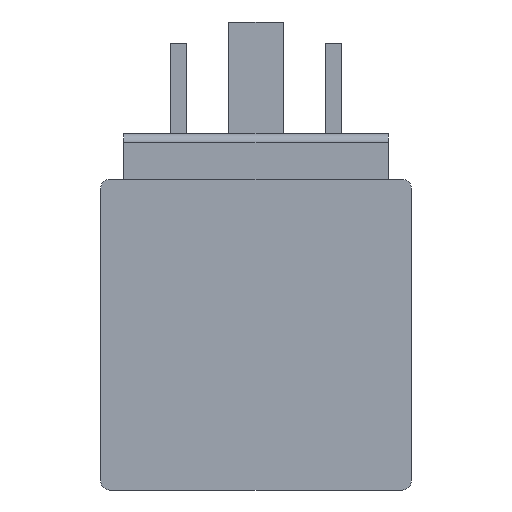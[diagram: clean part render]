
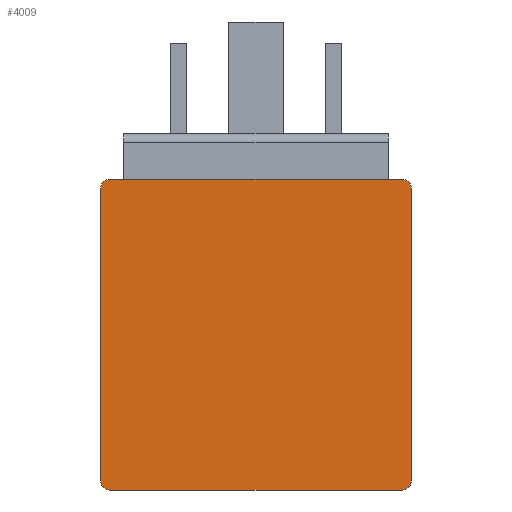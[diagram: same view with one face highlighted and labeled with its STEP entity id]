
A CAD part, front view. The second image highlights one B-rep face of the part: STEP entity #4009.
In plain terms, the highlighted planar face has unit normal (0, -1, 0).
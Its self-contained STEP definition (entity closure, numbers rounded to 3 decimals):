
#1369=CARTESIAN_POINT('',(-16.,-23.,-16.));
#1370=DIRECTION('',(0.,-1.,0.));
#1371=DIRECTION('',(-1.,0.,0.));
#1372=AXIS2_PLACEMENT_3D('',#1369,#1370,#1371);
#1374=DIRECTION('',(0.,0.,-1.));
#1375=VECTOR('',#1374,32.);
#1376=CARTESIAN_POINT('',(-17.,-23.,16.));
#1377=LINE('',#1376,#1375);
#1378=CARTESIAN_POINT('',(-16.,-23.,16.));
#1379=DIRECTION('',(0.,-1.,0.));
#1380=DIRECTION('',(0.,0.,1.));
#1381=AXIS2_PLACEMENT_3D('',#1378,#1379,#1380);
#1383=DIRECTION('',(-1.,0.,0.));
#1384=VECTOR('',#1383,32.);
#1385=CARTESIAN_POINT('',(16.,-23.,17.));
#1386=LINE('',#1385,#1384);
#1387=CARTESIAN_POINT('',(16.,-23.,16.));
#1388=DIRECTION('',(0.,-1.,0.));
#1389=DIRECTION('',(1.,0.,0.));
#1390=AXIS2_PLACEMENT_3D('',#1387,#1388,#1389);
#1392=DIRECTION('',(0.,0.,1.));
#1393=VECTOR('',#1392,32.);
#1394=CARTESIAN_POINT('',(17.,-23.,-16.));
#1395=LINE('',#1394,#1393);
#1396=CARTESIAN_POINT('',(16.,-23.,-16.));
#1397=DIRECTION('',(0.,-1.,0.));
#1398=DIRECTION('',(0.,0.,-1.));
#1399=AXIS2_PLACEMENT_3D('',#1396,#1397,#1398);
#1401=DIRECTION('',(1.,0.,0.));
#1402=VECTOR('',#1401,32.);
#1403=CARTESIAN_POINT('',(-16.,-23.,-17.));
#1404=LINE('',#1403,#1402);
#1569=CARTESIAN_POINT('',(-17.,-23.,16.));
#1570=CARTESIAN_POINT('',(-17.,-23.,-16.));
#1571=VERTEX_POINT('',#1569);
#1572=VERTEX_POINT('',#1570);
#1573=CARTESIAN_POINT('',(16.,-23.,17.));
#1574=CARTESIAN_POINT('',(-16.,-23.,17.));
#1575=VERTEX_POINT('',#1573);
#1576=VERTEX_POINT('',#1574);
#1577=CARTESIAN_POINT('',(17.,-23.,-16.));
#1578=CARTESIAN_POINT('',(17.,-23.,16.));
#1579=VERTEX_POINT('',#1577);
#1580=VERTEX_POINT('',#1578);
#1581=CARTESIAN_POINT('',(-16.,-23.,-17.));
#1582=CARTESIAN_POINT('',(16.,-23.,-17.));
#1583=VERTEX_POINT('',#1581);
#1584=VERTEX_POINT('',#1582);
#3988=CARTESIAN_POINT('',(0.,-23.,0.));
#3989=DIRECTION('',(0.,1.,0.));
#3990=DIRECTION('',(1.,0.,0.));
#3991=AXIS2_PLACEMENT_3D('',#3988,#3989,#3990);
#3992=PLANE('',#3991);
#3994=ORIENTED_EDGE('',*,*,#3993,.F.);
#3996=ORIENTED_EDGE('',*,*,#3995,.F.);
#3997=ORIENTED_EDGE('',*,*,#3981,.F.);
#3998=ORIENTED_EDGE('',*,*,#2059,.F.);
#4000=ORIENTED_EDGE('',*,*,#3999,.F.);
#4002=ORIENTED_EDGE('',*,*,#4001,.F.);
#4004=ORIENTED_EDGE('',*,*,#4003,.F.);
#4006=ORIENTED_EDGE('',*,*,#4005,.F.);
#4007=EDGE_LOOP('',(#3994,#3996,#3997,#3998,#4000,#4002,#4004,#4006));
#4008=FACE_OUTER_BOUND('',#4007,.F.);
#4009=ADVANCED_FACE('',(#4008),#3992,.F.);
#1373=CIRCLE('',#1372,1.);
#1382=CIRCLE('',#1381,1.);
#1391=CIRCLE('',#1390,1.);
#1400=CIRCLE('',#1399,1.);
#2059=EDGE_CURVE('',#1575,#1576,#1386,.T.);
#3981=EDGE_CURVE('',#1576,#1571,#1382,.T.);
#3993=EDGE_CURVE('',#1572,#1583,#1373,.T.);
#3995=EDGE_CURVE('',#1571,#1572,#1377,.T.);
#3999=EDGE_CURVE('',#1580,#1575,#1391,.T.);
#4001=EDGE_CURVE('',#1579,#1580,#1395,.T.);
#4003=EDGE_CURVE('',#1584,#1579,#1400,.T.);
#4005=EDGE_CURVE('',#1583,#1584,#1404,.T.);
